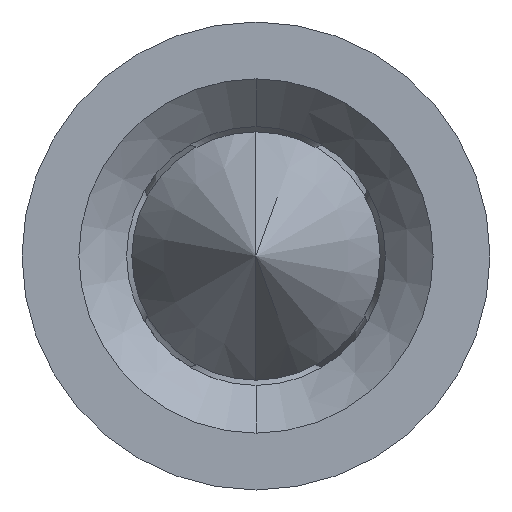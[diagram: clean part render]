
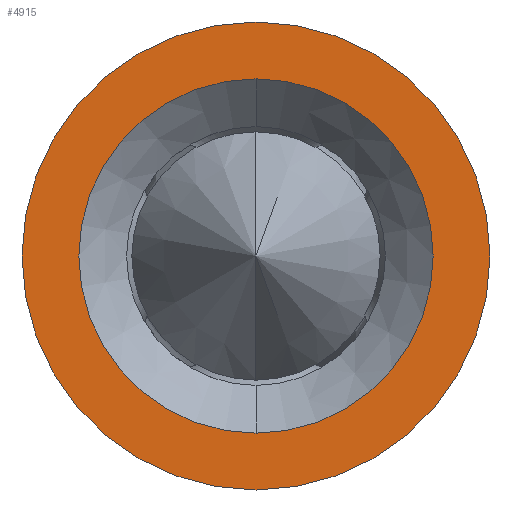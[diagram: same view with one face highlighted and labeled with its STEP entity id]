
A CAD part, left-side view. The second image highlights one B-rep face of the part: STEP entity #4915.
In plain terms, the highlighted planar face has unit normal (-1, 0, 0).
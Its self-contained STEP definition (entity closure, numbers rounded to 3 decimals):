
#252 = CARTESIAN_POINT ( 'NONE',  ( -8.89, 0., 0. ) ) ;
#289 = DIRECTION ( 'NONE',  ( 0., 0., -1. ) ) ;
#316 = FACE_BOUND ( 'NONE', #1444, .T. ) ;
#574 = VERTEX_POINT ( 'NONE', #2625 ) ;
#605 = CIRCLE ( 'NONE', #4051, 0.622 ) ;
#624 = EDGE_CURVE ( 'NONE', #1127, #574, #1371, .T. ) ;
#690 = AXIS2_PLACEMENT_3D ( 'NONE', #4434, #1985, #289 ) ;
#692 = CIRCLE ( 'NONE', #3160, 0.471 ) ;
#771 = CARTESIAN_POINT ( 'NONE',  ( -8.89, 0., 0. ) ) ;
#1127 = VERTEX_POINT ( 'NONE', #3353 ) ;
#1274 = ORIENTED_EDGE ( 'NONE', *, *, #2764, .F. ) ;
#1278 = CARTESIAN_POINT ( 'NONE',  ( -8.89, 0., 0.622 ) ) ;
#1371 = CIRCLE ( 'NONE', #2133, 0.471 ) ;
#1443 = AXIS2_PLACEMENT_3D ( 'NONE', #4027, #3605, #4376 ) ;
#1444 = EDGE_LOOP ( 'NONE', ( #2677, #4783 ) ) ;
#1596 = EDGE_LOOP ( 'NONE', ( #1274, #4644 ) ) ;
#1985 = DIRECTION ( 'NONE',  ( 1., 0., 0. ) ) ;
#2081 = VERTEX_POINT ( 'NONE', #2653 ) ;
#2133 = AXIS2_PLACEMENT_3D ( 'NONE', #771, #3565, #4388 ) ;
#2140 = CARTESIAN_POINT ( 'NONE',  ( -8.89, 0., 0. ) ) ;
#2350 = DIRECTION ( 'NONE',  ( 1., 0., 0. ) ) ;
#2528 = EDGE_CURVE ( 'NONE', #574, #1127, #692, .T. ) ;
#2625 = CARTESIAN_POINT ( 'NONE',  ( -8.89, 0., -0.471 ) ) ;
#2653 = CARTESIAN_POINT ( 'NONE',  ( -8.89, 0., -0.622 ) ) ;
#2677 = ORIENTED_EDGE ( 'NONE', *, *, #624, .F. ) ;
#2764 = EDGE_CURVE ( 'NONE', #2081, #4277, #605, .T. ) ;
#3160 = AXIS2_PLACEMENT_3D ( 'NONE', #2140, #4111, #4672 ) ;
#3244 = FACE_OUTER_BOUND ( 'NONE', #1596, .T. ) ;
#3353 = CARTESIAN_POINT ( 'NONE',  ( -8.89, 0., 0.471 ) ) ;
#3565 = DIRECTION ( 'NONE',  ( -1., 0., 0. ) ) ;
#3605 = DIRECTION ( 'NONE',  ( 1., 0., 0. ) ) ;
#4027 = CARTESIAN_POINT ( 'NONE',  ( -8.89, 0., 0. ) ) ;
#4051 = AXIS2_PLACEMENT_3D ( 'NONE', #252, #2350, #5236 ) ;
#4111 = DIRECTION ( 'NONE',  ( -1., 0., 0. ) ) ;
#4277 = VERTEX_POINT ( 'NONE', #1278 ) ;
#4359 = PLANE ( 'NONE',  #690 ) ;
#4376 = DIRECTION ( 'NONE',  ( 0., 0., -1. ) ) ;
#4388 = DIRECTION ( 'NONE',  ( 0., 0., 1. ) ) ;
#4434 = CARTESIAN_POINT ( 'NONE',  ( -8.89, -0.63, 0.63 ) ) ;
#4644 = ORIENTED_EDGE ( 'NONE', *, *, #5249, .F. ) ;
#4672 = DIRECTION ( 'NONE',  ( 0., 0., 1. ) ) ;
#4783 = ORIENTED_EDGE ( 'NONE', *, *, #2528, .F. ) ;
#4915 = ADVANCED_FACE ( 'NONE', ( #316, #3244 ), #4359, .F. ) ;
#5197 = CIRCLE ( 'NONE', #1443, 0.622 ) ;
#5236 = DIRECTION ( 'NONE',  ( 0., 0., -1. ) ) ;
#5249 = EDGE_CURVE ( 'NONE', #4277, #2081, #5197, .T. ) ;
